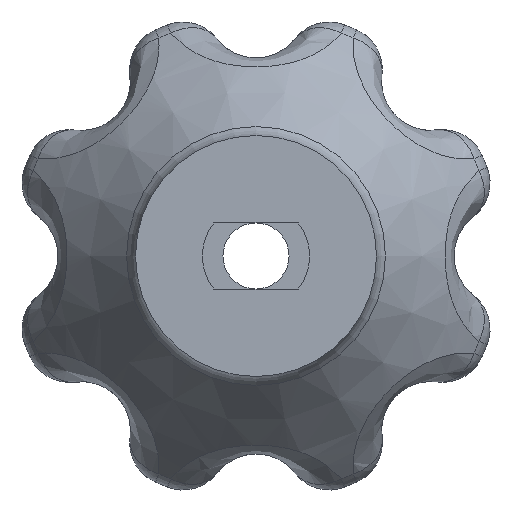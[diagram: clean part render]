
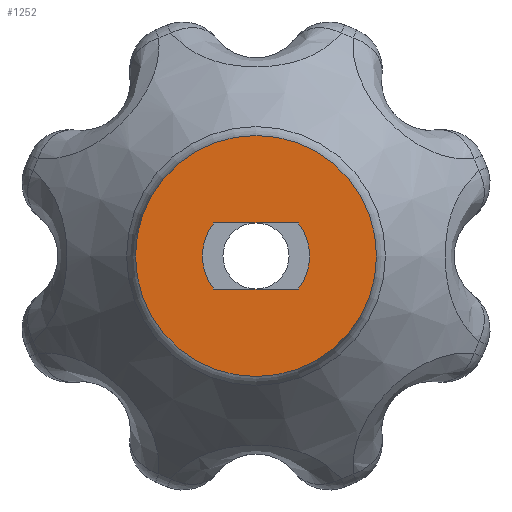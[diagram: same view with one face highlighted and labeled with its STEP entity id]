
A CAD part, front view. The second image highlights one B-rep face of the part: STEP entity #1252.
In plain terms, the highlighted planar face has unit normal (0, -1, 0).
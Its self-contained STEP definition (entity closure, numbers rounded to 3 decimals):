
#17=FACE_BOUND('',#368,.T.);
#24=PLANE('',#1462);
#146=LINE('',#2906,#194);
#150=LINE('',#2915,#198);
#194=VECTOR('',#1887,10.);
#198=VECTOR('',#1897,10.);
#283=FACE_OUTER_BOUND('',#367,.T.);
#367=EDGE_LOOP('',(#1155));
#368=EDGE_LOOP('',(#1156,#1157,#1158,#1159));
#394=CIRCLE('',#1300,3.65);
#489=CIRCLE('',#1458,1.625);
#490=CIRCLE('',#1461,1.625);
#522=VERTEX_POINT('',#2072);
#595=VERTEX_POINT('',#2904);
#596=VERTEX_POINT('',#2905);
#597=VERTEX_POINT('',#2910);
#598=VERTEX_POINT('',#2914);
#638=EDGE_CURVE('',#522,#522,#394,.T.);
#778=EDGE_CURVE('',#595,#596,#146,.T.);
#781=EDGE_CURVE('',#597,#595,#489,.T.);
#783=EDGE_CURVE('',#598,#597,#150,.T.);
#785=EDGE_CURVE('',#596,#598,#490,.T.);
#1155=ORIENTED_EDGE('',*,*,#638,.F.);
#1156=ORIENTED_EDGE('',*,*,#785,.F.);
#1157=ORIENTED_EDGE('',*,*,#778,.F.);
#1158=ORIENTED_EDGE('',*,*,#781,.F.);
#1159=ORIENTED_EDGE('',*,*,#783,.F.);
#1252=ADVANCED_FACE('',(#283,#17),#24,.F.);
#1300=AXIS2_PLACEMENT_3D('',#2074,#1536,#1537);
#1458=AXIS2_PLACEMENT_3D('',#2911,#1892,#1893);
#1461=AXIS2_PLACEMENT_3D('',#2918,#1901,#1902);
#1462=AXIS2_PLACEMENT_3D('',#2919,#1903,#1904);
#1536=DIRECTION('center_axis',(0.,1.,0.));
#1537=DIRECTION('ref_axis',(1.,0.,0.));
#1887=DIRECTION('',(-1.,0.,0.));
#1892=DIRECTION('center_axis',(0.,-1.,0.));
#1893=DIRECTION('ref_axis',(1.,0.,0.));
#1897=DIRECTION('',(1.,0.,0.));
#1901=DIRECTION('center_axis',(0.,-1.,0.));
#1902=DIRECTION('ref_axis',(1.,0.,0.));
#1903=DIRECTION('center_axis',(0.,1.,0.));
#1904=DIRECTION('ref_axis',(1.,0.,0.));
#2072=CARTESIAN_POINT('',(-3.65,0.,0.));
#2074=CARTESIAN_POINT('Origin',(0.,0.,0.));
#2904=CARTESIAN_POINT('',(1.281,0.,1.));
#2905=CARTESIAN_POINT('',(-1.281,0.,1.));
#2906=CARTESIAN_POINT('',(1.281,0.,1.));
#2910=CARTESIAN_POINT('',(1.281,0.,-1.));
#2911=CARTESIAN_POINT('Origin',(0.,0.,0.));
#2914=CARTESIAN_POINT('',(-1.281,0.,-1.));
#2915=CARTESIAN_POINT('',(-1.281,0.,-1.));
#2918=CARTESIAN_POINT('Origin',(0.,0.,0.));
#2919=CARTESIAN_POINT('Origin',(0.,0.,0.));
